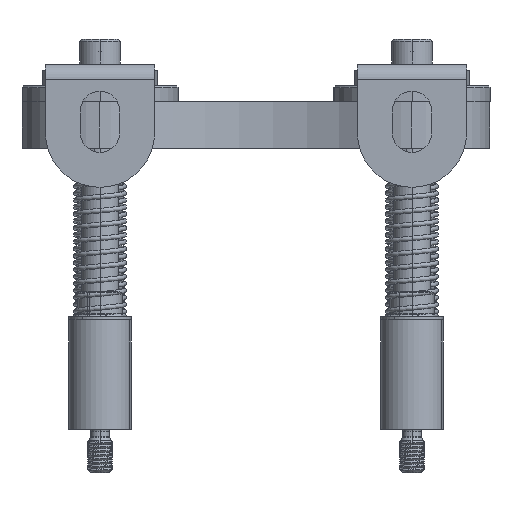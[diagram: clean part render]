
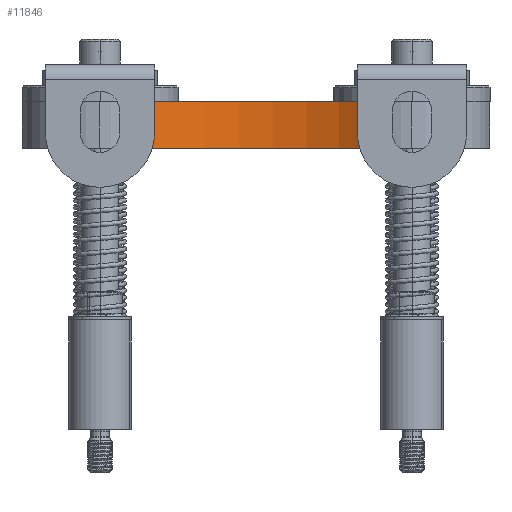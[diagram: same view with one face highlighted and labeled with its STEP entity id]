
A CAD part, left-side view. The second image highlights one B-rep face of the part: STEP entity #11846.
In plain terms, the highlighted cylindrical face has radius 65.833 mm (diameter 131.667 mm), a partial arc.
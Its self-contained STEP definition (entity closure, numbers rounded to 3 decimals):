
#54 = VECTOR ( 'NONE', #42844, 1000. ) ;
#2537 = LINE ( 'NONE', #47030, #54 ) ;
#4794 = EDGE_CURVE ( 'NONE', #45202, #8455, #2537, .T. ) ;
#7411 = CARTESIAN_POINT ( 'NONE',  ( -425.833, 0., 15. ) ) ;
#8246 = EDGE_LOOP ( 'NONE', ( #12494, #51233, #11671, #28256 ) ) ;
#8455 = VERTEX_POINT ( 'NONE', #31905 ) ;
#11265 = AXIS2_PLACEMENT_3D ( 'NONE', #28447, #36427, #24253 ) ;
#11671 = ORIENTED_EDGE ( 'NONE', *, *, #38919, .F. ) ;
#11782 = DIRECTION ( 'NONE',  ( 0., 0., -1. ) ) ;
#11846 = ADVANCED_FACE ( 'NONE', ( #42808 ), #33436, .F. ) ;
#12494 = ORIENTED_EDGE ( 'NONE', *, *, #25807, .T. ) ;
#15089 = CARTESIAN_POINT ( 'NONE',  ( -370.872, 36.239, 15. ) ) ;
#16865 = VECTOR ( 'NONE', #19320, 1000. ) ;
#19320 = DIRECTION ( 'NONE',  ( 0., 0., -1. ) ) ;
#20725 = CARTESIAN_POINT ( 'NONE',  ( -425.833, 0., 15. ) ) ;
#21642 = CIRCLE ( 'NONE', #11265, 65.833 ) ;
#23604 = CARTESIAN_POINT ( 'NONE',  ( -370.872, -36.239, 15. ) ) ;
#24253 = DIRECTION ( 'NONE',  ( -1., 0., 0. ) ) ;
#25807 = EDGE_CURVE ( 'NONE', #37746, #8455, #21642, .T. ) ;
#27010 = AXIS2_PLACEMENT_3D ( 'NONE', #20725, #44924, #44594 ) ;
#28256 = ORIENTED_EDGE ( 'NONE', *, *, #48997, .T. ) ;
#28447 = CARTESIAN_POINT ( 'NONE',  ( -425.833, 0., 0. ) ) ;
#28864 = AXIS2_PLACEMENT_3D ( 'NONE', #7411, #11782, #31387 ) ;
#31162 = CARTESIAN_POINT ( 'NONE',  ( -370.872, 36.239, 15. ) ) ;
#31387 = DIRECTION ( 'NONE',  ( -1., 0., 0. ) ) ;
#31905 = CARTESIAN_POINT ( 'NONE',  ( -370.872, -36.239, 0. ) ) ;
#33436 = CYLINDRICAL_SURFACE ( 'NONE', #27010, 65.833 ) ;
#36427 = DIRECTION ( 'NONE',  ( 0., 0., -1. ) ) ;
#37746 = VERTEX_POINT ( 'NONE', #41124 ) ;
#38035 = LINE ( 'NONE', #31162, #16865 ) ;
#38919 = EDGE_CURVE ( 'NONE', #40982, #45202, #43361, .T. ) ;
#40982 = VERTEX_POINT ( 'NONE', #15089 ) ;
#41124 = CARTESIAN_POINT ( 'NONE',  ( -370.872, 36.239, 0. ) ) ;
#42808 = FACE_OUTER_BOUND ( 'NONE', #8246, .T. ) ;
#42844 = DIRECTION ( 'NONE',  ( 0., 0., -1. ) ) ;
#43361 = CIRCLE ( 'NONE', #28864, 65.833 ) ;
#44594 = DIRECTION ( 'NONE',  ( -1., 0., 0. ) ) ;
#44924 = DIRECTION ( 'NONE',  ( 0., 0., -1. ) ) ;
#45202 = VERTEX_POINT ( 'NONE', #23604 ) ;
#47030 = CARTESIAN_POINT ( 'NONE',  ( -370.872, -36.239, 15. ) ) ;
#48997 = EDGE_CURVE ( 'NONE', #40982, #37746, #38035, .T. ) ;
#51233 = ORIENTED_EDGE ( 'NONE', *, *, #4794, .F. ) ;
